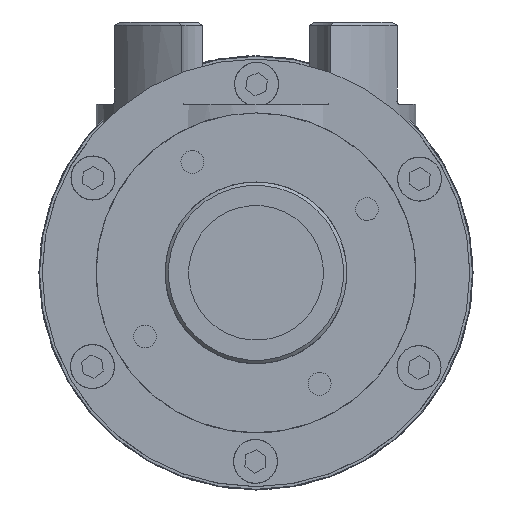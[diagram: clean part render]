
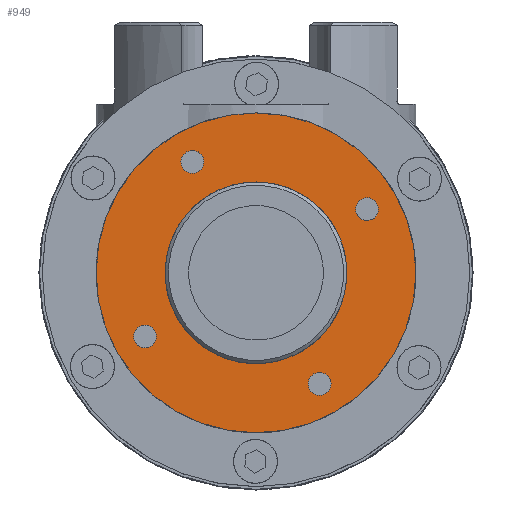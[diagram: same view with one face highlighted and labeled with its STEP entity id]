
A CAD part, left-side view. The second image highlights one B-rep face of the part: STEP entity #949.
In plain terms, the highlighted planar face has unit normal (-1, 0, 0) as drawn and (0, -1, 0) by its records, which use the part's own axes.
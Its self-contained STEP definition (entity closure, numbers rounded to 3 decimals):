
#949 = ADVANCED_FACE( '', ( #1853, #1854, #1855, #1856, #1857, #1858 ), #1859, .F. );
#1853 = FACE_OUTER_BOUND( '', #2924, .T. );
#1854 = FACE_BOUND( '', #2925, .T. );
#1855 = FACE_BOUND( '', #2926, .T. );
#1856 = FACE_BOUND( '', #2927, .T. );
#1857 = FACE_BOUND( '', #2928, .T. );
#1858 = FACE_BOUND( '', #2929, .T. );
#1859 = PLANE( '', #2930 );
#2924 = EDGE_LOOP( '', ( #5055 ) );
#2925 = EDGE_LOOP( '', ( #5056 ) );
#2926 = EDGE_LOOP( '', ( #5057 ) );
#2927 = EDGE_LOOP( '', ( #5058 ) );
#2928 = EDGE_LOOP( '', ( #5059 ) );
#2929 = EDGE_LOOP( '', ( #5060 ) );
#2930 = AXIS2_PLACEMENT_3D( '', #5061, #5062, #5063 );
#5055 = ORIENTED_EDGE( '', *, *, #6924, .T. );
#5056 = ORIENTED_EDGE( '', *, *, #6933, .F. );
#5057 = ORIENTED_EDGE( '', *, *, #6925, .F. );
#5058 = ORIENTED_EDGE( '', *, *, #6934, .F. );
#5059 = ORIENTED_EDGE( '', *, *, #6932, .F. );
#5060 = ORIENTED_EDGE( '', *, *, #6931, .F. );
#5061 = CARTESIAN_POINT( '', ( 0., 0., 47.5 ) );
#5062 = DIRECTION( '', ( 0., 1., 0. ) );
#5063 = DIRECTION( '', ( 1., 0., 0. ) );
#6924 = EDGE_CURVE( '', #8036, #8036, #8037, .T. );
#6925 = EDGE_CURVE( '', #8038, #8038, #8039, .T. );
#6931 = EDGE_CURVE( '', #8050, #8050, #8051, .T. );
#6932 = EDGE_CURVE( '', #8052, #8052, #8053, .T. );
#6933 = EDGE_CURVE( '', #8054, #8054, #8055, .T. );
#6934 = EDGE_CURVE( '', #8056, #8056, #8057, .T. );
#8036 = VERTEX_POINT( '', #9622 );
#8037 = CIRCLE( '', #9623, 47.5 );
#8038 = VERTEX_POINT( '', #9624 );
#8039 = CIRCLE( '', #9625, 3.4 );
#8050 = VERTEX_POINT( '', #9636 );
#8051 = CIRCLE( '', #9637, 27. );
#8052 = VERTEX_POINT( '', #9638 );
#8053 = CIRCLE( '', #9639, 3.4 );
#8054 = VERTEX_POINT( '', #9640 );
#8055 = CIRCLE( '', #9641, 3.4 );
#8056 = VERTEX_POINT( '', #9642 );
#8057 = CIRCLE( '', #9643, 3.4 );
#9622 = CARTESIAN_POINT( '', ( 0., 0., -47.5 ) );
#9623 = AXIS2_PLACEMENT_3D( '', #11580, #11581, #11582 );
#9624 = CARTESIAN_POINT( '', ( -3.4, 0., -38. ) );
#9625 = AXIS2_PLACEMENT_3D( '', #11583, #11584, #11585 );
#9636 = CARTESIAN_POINT( '', ( 0., 0., -27. ) );
#9637 = AXIS2_PLACEMENT_3D( '', #11601, #11602, #11603 );
#9638 = CARTESIAN_POINT( '', ( 3.4, 0., 38. ) );
#9639 = AXIS2_PLACEMENT_3D( '', #11604, #11605, #11606 );
#9640 = CARTESIAN_POINT( '', ( -38., 0., 3.4 ) );
#9641 = AXIS2_PLACEMENT_3D( '', #11607, #11608, #11609 );
#9642 = CARTESIAN_POINT( '', ( 38., 0., -3.4 ) );
#9643 = AXIS2_PLACEMENT_3D( '', #11610, #11611, #11612 );
#11580 = CARTESIAN_POINT( '', ( 0., 0., 0. ) );
#11581 = DIRECTION( '', ( 0., -1., 0. ) );
#11582 = DIRECTION( '', ( 0., 0., -1. ) );
#11583 = CARTESIAN_POINT( '', ( 0., 0., -38. ) );
#11584 = DIRECTION( '', ( 0., -1., 0. ) );
#11585 = DIRECTION( '', ( -1., 0., 0. ) );
#11601 = CARTESIAN_POINT( '', ( 0., 0., 0. ) );
#11602 = DIRECTION( '', ( 0., -1., 0. ) );
#11603 = DIRECTION( '', ( 0., 0., -1. ) );
#11604 = CARTESIAN_POINT( '', ( 0., 0., 38. ) );
#11605 = DIRECTION( '', ( 0., -1., 0. ) );
#11606 = DIRECTION( '', ( 1., 0., 0. ) );
#11607 = CARTESIAN_POINT( '', ( -38., 0., 0. ) );
#11608 = DIRECTION( '', ( 0., -1., 0. ) );
#11609 = DIRECTION( '', ( 0., 0., 1. ) );
#11610 = CARTESIAN_POINT( '', ( 38., 0., 0. ) );
#11611 = DIRECTION( '', ( 0., -1., 0. ) );
#11612 = DIRECTION( '', ( 0., 0., -1. ) );
